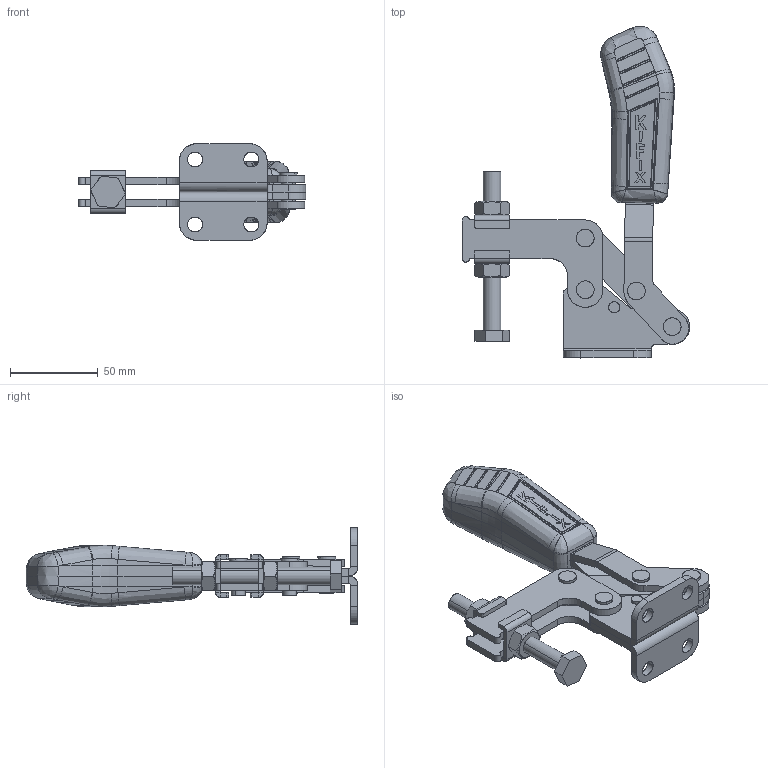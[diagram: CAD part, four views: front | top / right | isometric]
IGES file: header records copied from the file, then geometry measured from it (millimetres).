
Start section: SolidWorks IGES file using analytic representation for surfaces
Global section: file name: G:\Grampos\KF-631\KF-631 DI\KF-631 DI.IGS; native system: SolidWorks 2018; preprocessor: SolidWorks 2018; author: Ricardo.Sandi; date: 181128.153031; units: millimetre
Bounding box: 129.5 x 188.93 x 55 mm (x, y, z)
Surface area: 74617.6 mm2 (no closed solid volume)
Topology: 0 solids, 0 shells, 713 faces, 8097 edges, 8075 vertices
Faces by surface type: bspline 443, revolution 270
